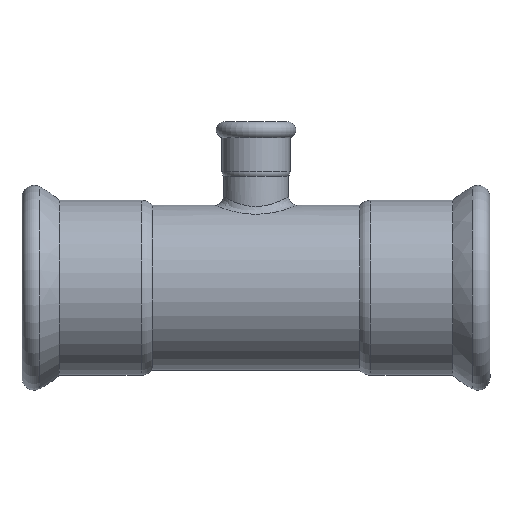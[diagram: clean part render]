
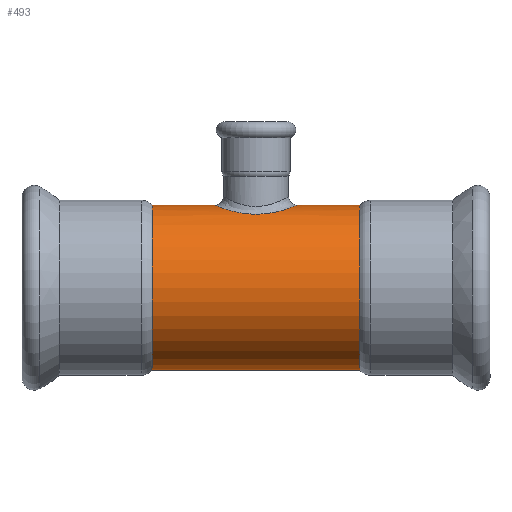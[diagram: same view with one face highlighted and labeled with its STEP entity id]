
A CAD part, front view. The second image highlights one B-rep face of the part: STEP entity #493.
In plain terms, the highlighted cylindrical face has radius 38.05 mm (diameter 76.1 mm), a full revolution.
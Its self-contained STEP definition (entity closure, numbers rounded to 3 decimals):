
#20=B_SPLINE_CURVE_WITH_KNOTS($,3,(#1217,#1218,#1219,#1220,#1221,#1222,
#1223,#1224,#1225,#1226,#1227,#1228,#1229,#1230,#1231,#1232,#1233,#1234,
#1235,#1236,#1237,#1238,#1239,#1240),.UNSPECIFIED.,.T.,.F.,(4,3,1,1,1,1,
1,1,1,1,1,1,1,1,1,1,1,1,1,4),(-9.149,-9.149,-8.496,
-7.842,-7.189,-6.535,-5.882,
-5.228,-4.792,-4.357,-3.921,
-3.485,-3.05,-2.614,-1.961,
-1.634,-1.307,-0.654,-0.327,
0.),.UNSPECIFIED.);
#60=FACE_BOUND($,#182,.T.);
#61=FACE_BOUND($,#183,.T.);
#93=CYLINDRICAL_SURFACE($,#565,38.05);
#122=FACE_OUTER_BOUND($,#181,.T.);
#181=EDGE_LOOP($,(#424));
#182=EDGE_LOOP($,(#425));
#183=EDGE_LOOP($,(#426));
#255=CIRCLE($,#566,38.05);
#256=CIRCLE($,#567,38.05);
#300=VERTEX_POINT($,#1193);
#302=VERTEX_POINT($,#1243);
#303=VERTEX_POINT($,#1245);
#352=EDGE_CURVE($,#300,#300,#20,.T.);
#353=EDGE_CURVE($,#302,#302,#255,.T.);
#354=EDGE_CURVE($,#303,#303,#256,.T.);
#424=ORIENTED_EDGE($,*,*,#353,.F.);
#425=ORIENTED_EDGE($,*,*,#354,.T.);
#426=ORIENTED_EDGE($,*,*,#352,.F.);
#493=ADVANCED_FACE($,(#122,#60,#61),#93,.T.);
#565=AXIS2_PLACEMENT_3D($,#1242,#699,#700);
#566=AXIS2_PLACEMENT_3D($,#1244,#701,#702);
#567=AXIS2_PLACEMENT_3D($,#1246,#703,#704);
#699=DIRECTION('center_axis',(1.,0.,0.));
#700=DIRECTION('ref_axis',(0.,1.,0.));
#701=DIRECTION('center_axis',(1.,0.,0.));
#702=DIRECTION('ref_axis',(0.,1.,0.));
#703=DIRECTION('center_axis',(1.,0.,0.));
#704=DIRECTION('ref_axis',(0.,1.,0.));
#1193=CARTESIAN_POINT('',(-108.,-17.193,33.944));
#1217=CARTESIAN_POINT('Ctrl Pts',(-108.,-17.193,33.943));
#1218=CARTESIAN_POINT('Ctrl Pts',(-108.,-17.193,33.943));
#1219=CARTESIAN_POINT('Ctrl Pts',(-108.,-17.193,33.943));
#1220=CARTESIAN_POINT('Ctrl Pts',(-107.999,-17.193,33.943));
#1221=CARTESIAN_POINT('Ctrl Pts',(-105.132,-17.193,33.943));
#1222=CARTESIAN_POINT('Ctrl Pts',(-99.384,-15.971,34.598));
#1223=CARTESIAN_POINT('Ctrl Pts',(-92.7,-11.118,36.576));
#1224=CARTESIAN_POINT('Ctrl Pts',(-88.849,-4.046,38.107));
#1225=CARTESIAN_POINT('Ctrl Pts',(-88.839,4.032,38.113));
#1226=CARTESIAN_POINT('Ctrl Pts',(-92.705,11.124,36.57));
#1227=CARTESIAN_POINT('Ctrl Pts',(-98.633,15.423,34.825));
#1228=CARTESIAN_POINT('Ctrl Pts',(-105.086,17.258,33.913));
#1229=CARTESIAN_POINT('Ctrl Pts',(-110.912,17.258,33.912));
#1230=CARTESIAN_POINT('Ctrl Pts',(-116.44,15.689,34.694));
#1231=CARTESIAN_POINT('Ctrl Pts',(-121.105,12.791,35.9));
#1232=CARTESIAN_POINT('Ctrl Pts',(-124.658,8.786,37.115));
#1233=CARTESIAN_POINT('Ctrl Pts',(-127.159,3.131,38.11));
#1234=CARTESIAN_POINT('Ctrl Pts',(-127.156,-2.683,38.109));
#1235=CARTESIAN_POINT('Ctrl Pts',(-125.224,-7.593,37.34));
#1236=CARTESIAN_POINT('Ctrl Pts',(-122.186,-11.927,36.243));
#1237=CARTESIAN_POINT('Ctrl Pts',(-117.715,-15.161,34.933));
#1238=CARTESIAN_POINT('Ctrl Pts',(-112.329,-16.892,34.099));
#1239=CARTESIAN_POINT('Ctrl Pts',(-109.433,-17.193,33.944));
#1240=CARTESIAN_POINT('Ctrl Pts',(-108.,-17.193,33.943));
#1242=CARTESIAN_POINT('Origin',(-67.344,0.,0.));
#1243=CARTESIAN_POINT('',(-60.187,38.05,0.));
#1244=CARTESIAN_POINT('Origin',(-60.187,0.,0.));
#1245=CARTESIAN_POINT('',(-155.813,38.05,0.));
#1246=CARTESIAN_POINT('Origin',(-155.813,0.,0.));
